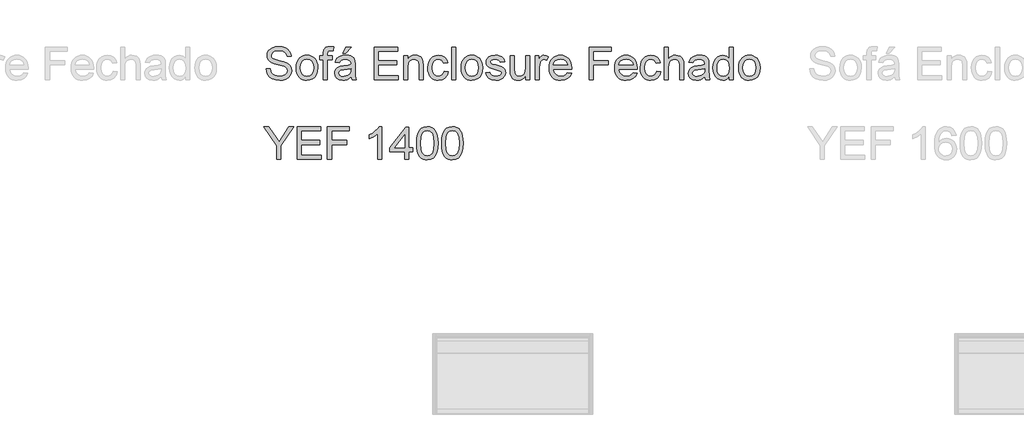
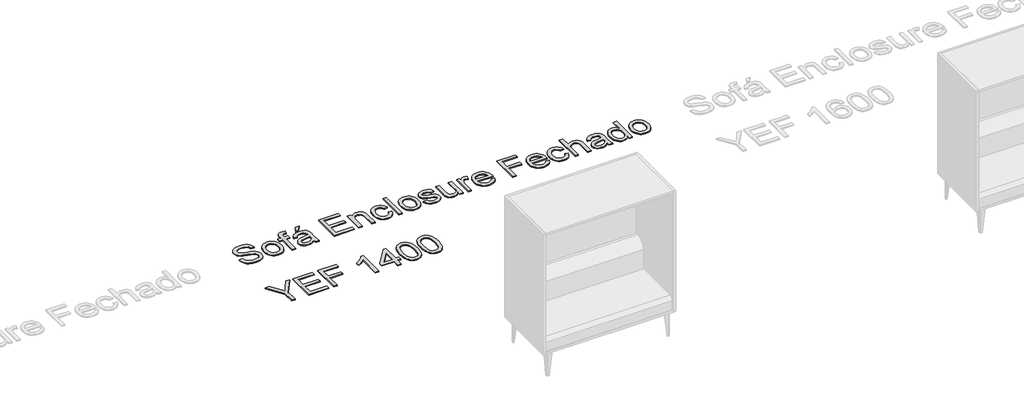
# One storey, part 11 of 26: 1 proxy.
"""IFC4 building model written with IfcOpenShell, lengths in millimetres."""

from ifc_helpers import new_model, si_unit, origin, origin_with_axes, place, context, project, spatial, polyline, outline, extrude, element, save

model = new_model("IFC4")

# Units and contexts
model_context = context("Model", 3, world=origin())
ifc_project = project(units=[si_unit("LENGTHUNIT", "METRE", prefix="MILLI")], contexts=[model_context])

# Site, building, storey
site = spatial("IfcSite", under=ifc_project)
building = spatial("IfcBuilding", under=site)
storey = spatial("IfcBuildingStorey", under=building, Name="Marelli - Linha YOUNG - Planta Baixa", Elevation=0.0)

# Proxy
placement = place(None, origin())
element("IfcBuildingElementProxy", 1, Name="300mm Arial", ObjectType="300mm Arial", at=placement, inside=storey, context=model_context, shape_type="SweptSolid", body=[
    extrude(outline(polyline([(-1367.7715428, -27311.0462967), (-1330.1004265, -27311.0462967), (-1325.7778131, -27331.9511911), (-1317.9603207, -27348.7542012), (-1305.7650326, -27362.0899235), (-1288.3090319, -27372.5929545), (-1266.9718762, -27379.4079684), (-1243.1331229, -27381.6796398), (-1222.1454551, -27379.9597914), (-1203.7697494, -27374.8002465), (-1188.8797256, -27366.6332662), (-1178.3491035, -27355.8911119), (-1172.0859126, -27343.557868), (-1169.9981822, -27330.6176188), (-1171.5616807, -27318.0084634), (-1176.2521762, -27307.1099593), (-1185.7803198, -27297.8117419), (-1201.856763, -27290.0034466), (-1256.7079685, -27275.6192606), (-1292.7144188, -27266.1003139), (-1315.7530287, -27257.0412198), (-1334.5058134, -27244.3676851), (-1347.7955505, -27229.0086118), (-1355.7142105, -27211.2950937), (-1358.3537638, -27191.5582247), (-1355.0888111, -27169.494502), (-1345.2939529, -27148.9207014), (-1329.2267068, -27131.4830948), (-1307.14459, -27118.8279542), (-1280.6386923, -27111.1300235), (-1251.3001032, -27108.5640465), (-1219.5150988, -27111.2495851), (-1191.70322, -27119.3062008), (-1168.8577481, -27132.5683467), (-1151.9719645, -27150.870476), (-1141.2849925, -27173.0721544), (-1137.0359555, -27198.0329478), (-1174.7070718, -27198.0329478), (-1181.6232533, -27175.5553579), (-1196.0442275, -27159.3317619), (-1218.5769997, -27149.5093126), (-1249.8285752, -27146.2351629), (-1281.8159147, -27149.4725244), (-1303.7600757, -27159.1846091), (-1316.4520045, -27173.4768246), (-1320.6826475, -27190.4545787), (-1317.6844092, -27204.9307352), (-1308.6896944, -27216.5742003), (-1287.4261151, -27226.9852608), (-1247.1798248, -27237.6170505), (-1205.6459476, -27247.7154112), (-1180.5196073, -27256.526185), (-1159.0444958, -27270.1930011), (-1144.0625016, -27287.0603906), (-1135.2609248, -27306.9444124), (-1132.3270659, -27329.6611256), (-1135.7023832, -27352.8836766), (-1145.8283352, -27374.7266701), (-1162.2910544, -27393.52544), (-1184.6766738, -27407.6153204), (-1211.5964388, -27416.4168972), (-1241.6615949, -27419.3507561), (-1278.5693561, -27416.1869709), (-1308.9472118, -27406.6956154), (-1333.14465, -27390.8399014), (-1351.5111587, -27368.5830407), (-1363.3017766, -27341.4701377), (-1367.7715428, -27311.0462967)])), origin_with_axes(), (0.0, 0.0, 1.0), 10.0),
    extrude(outline(polyline([(-1089.9470601, -27303.9829624), (-1087.9099135, -27275.3203564), (-1081.7984739, -27250.621679), (-1071.6127412, -27229.88693), (-1057.3527153, -27213.1161096), (-1042.9961205, -27202.3969479), (-1027.1496035, -27194.7404039), (-1009.8131645, -27190.1464775), (-990.9868034, -27188.6151687), (-970.2037699, -27190.4798706), (-951.4118978, -27196.0739761), (-934.6111869, -27205.3974855), (-919.8016373, -27218.4503985), (-907.7144145, -27234.7912569), (-899.0806839, -27253.9786022), (-893.9004456, -27276.0124344), (-892.1736995, -27300.8927536), (-895.22712, -27338.950146), (-904.3873817, -27367.9208531), (-919.3877701, -27389.6166938), (-939.9615707, -27405.8494868), (-964.3981322, -27415.9754388), (-990.9868034, -27419.3507561), (-1012.0733395, -27417.492952), (-1031.0399556, -27411.9195398), (-1047.8866517, -27402.6305194), (-1062.6134278, -27389.6258909), (-1074.571892, -27373.1263834), (-1083.113652, -27353.3527261), (-1088.2387081, -27330.3049191), (-1089.9470601, -27303.9829624)]), holes=[polyline([(-1052.2759438, -27303.909386), (-1047.9165421, -27338.0028499), (-1034.8383372, -27362.2922586), (-1015.1566505, -27376.8327945), (-990.9868034, -27381.6796398), (-966.9273209, -27376.8052033), (-947.2824224, -27362.181894), (-934.2042174, -27337.5705885), (-929.8448158, -27302.7321636), (-934.2318086, -27269.6319811), (-947.392787, -27245.6736661), (-967.0652766, -27231.1331303), (-990.9868034, -27226.286285), (-1015.1566505, -27231.1147362), (-1034.8383372, -27245.6000897), (-1047.9165421, -27269.8343162), (-1052.2759438, -27303.909386)])]), origin_with_axes(), (0.0, 0.0, 1.0), 10.0),
    extrude(outline(polyline([(-840.3759146, -27414.6418665), (-840.3759146, -27230.9951745), (-873.3381413, -27230.9951745), (-873.3381413, -27193.3240582), (-840.3759146, -27193.3240582), (-840.3759146, -27171.0304093), (-836.402789, -27139.6132869), (-828.8244199, -27127.086905), (-817.1257725, -27117.1724852), (-800.7550237, -27110.7161562), (-779.1603506, -27108.5640465), (-744.8001722, -27112.6843249), (-750.3184021, -27148.0009964), (-772.0234399, -27146.2351629), (-786.3432465, -27147.7986613), (-795.7518285, -27152.4891568), (-800.9665558, -27161.4470834), (-802.7047983, -27175.8128753), (-802.7047983, -27193.3240582), (-760.3247924, -27193.3240582), (-760.3247924, -27230.9951745), (-802.7047983, -27230.9951745), (-802.7047983, -27414.6418665), (-840.3759146, -27414.6418665)])), origin_with_axes(), (0.0, 0.0, 1.0), 10.0),
    extrude(outline(polyline([(-586.0958795, -27386.3885293), (-604.0945061, -27401.821179), (-622.6265616, -27411.9195398), (-642.1151103, -27417.492952), (-662.9832165, -27419.3507561), (-694.4647182, -27414.8809898), (-717.6872692, -27401.4716911), (-732.0070758, -27381.1094227), (-736.7803447, -27355.7807473), (-734.9777229, -27340.1641566), (-729.5698576, -27325.9823057), (-721.2281334, -27313.8421999), (-710.6239349, -27304.3508444), (-684.2467958, -27291.9900093), (-651.652451, -27286.3246266), (-613.1352061, -27280.3649383), (-586.3166087, -27273.3751804), (-586.0958795, -27264.9874709), (-588.6894476, -27248.1752637), (-596.4701518, -27237.1755921), (-613.8709701, -27229.0086118), (-638.1143936, -27226.286285), (-660.5551953, -27228.0981038), (-676.2269683, -27233.5335603), (-686.9139403, -27243.5859358), (-694.4003389, -27259.2485118), (-732.0714552, -27254.5396222), (-725.5323527, -27233.9382305), (-715.7742828, -27217.7514227), (-701.8867375, -27205.3721936), (-682.9592088, -27196.1935378), (-659.8102343, -27190.509761), (-633.2583513, -27188.6151687), (-607.7917202, -27190.2890318), (-587.6041957, -27195.310621), (-572.3830781, -27202.861399), (-561.8156678, -27212.1228282), (-554.8075158, -27223.5731553), (-550.2641732, -27237.6906269), (-548.4247632, -27270.6528536), (-548.4247632, -27317.5210198), (-546.5117768, -27382.9672267), (-539.0069841, -27414.6418665), (-576.6781004, -27414.6418665), (-586.0958795, -27386.3885293)]), holes=[polyline([(-586.0958795, -27311.0462967), (-646.8699851, -27322.5977913), (-679.2803889, -27328.7046325), (-693.9588805, -27338.6374463), (-699.1092284, -27353.1319969), (-696.3041282, -27364.3340037), (-687.8888276, -27373.5126595), (-674.0472675, -27379.6378947), (-654.963389, -27381.6796398), (-634.7298793, -27379.4263625), (-616.8508143, -27372.6665309), (-602.3562637, -27362.7061259), (-592.276297, -27350.8511286), (-587.8065308, -27338.6374463), (-586.3166087, -27321.7148746), (-586.0958795, -27311.0462967)])]), origin_with_axes(), (0.0, 0.0, 1.0), 10.0),
    extrude(outline(polyline([(-661.4381121, -27169.7796105), (-633.1847749, -27113.2729361), (-586.0958795, -27113.2729361), (-633.1847749, -27169.7796105), (-661.4381121, -27169.7796105)])), origin_with_axes(), (0.0, 0.0, 1.0), 10.0),
    extrude(outline(polyline([(-374.1958503, -27414.6418665), (-374.1958503, -27113.2729361), (-157.5869315, -27113.2729361), (-157.5869315, -27150.9440524), (-336.524734, -27150.9440524), (-336.524734, -27240.4129536), (-167.0047106, -27240.4129536), (-167.0047106, -27278.0840699), (-336.524734, -27278.0840699), (-336.524734, -27376.9707502), (-152.878042, -27376.9707502), (-152.878042, -27414.6418665), (-374.1958503, -27414.6418665)])), origin_with_axes(), (0.0, 0.0, 1.0), 10.0),
    extrude(outline(polyline([(-101.0802571, -27414.6418665), (-101.0802571, -27193.3240582), (-63.4091407, -27193.3240582), (-63.4091407, -27224.2261458), (-50.3217388, -27208.6463433), (-34.6039805, -27197.517913), (-16.255866, -27190.8408548), (4.7226048, -27188.6151687), (23.2914485, -27190.4085934), (40.2967937, -27195.7888676), (54.4786446, -27204.0846066), (64.5770054, -27214.6244258), (75.8709826, -27242.32594), (77.8575454, -27278.7462575), (77.8575454, -27414.6418665), (40.1864291, -27414.6418665), (40.1864291, -27283.823029), (35.8454216, -27250.4929203), (29.839748, -27240.5693035), (20.5047424, -27232.8713727), (8.5393805, -27227.9325569), (-5.3573619, -27226.286285), (-27.4210846, -27229.9834991), (-46.2290516, -27241.0751412), (-53.7453406, -27250.1296368), (-59.1141185, -27262.5042674), (-63.4091407, -27297.2139337), (-63.4091407, -27414.6418665), (-101.0802571, -27414.6418665)])), origin_with_axes(), (0.0, 0.0, 1.0), 10.0),
    extrude(outline(polyline([(270.9220165, -27334.5907444), (308.5931328, -27339.2996339), (298.0901018, -27372.8044866), (278.3532328, -27398.1239649), (251.2403297, -27414.0440583), (218.6091968, -27419.3507561), (197.4812739, -27417.4998498), (178.5376504, -27411.9471309), (161.7783263, -27402.6925995), (147.2033015, -27389.7362555), (135.4057858, -27373.3218207), (126.9789888, -27353.693017), (121.9229106, -27330.8498443), (120.2375512, -27304.7923028), (123.1162279, -27271.269056), (131.7522577, -27242.2155754), (146.2835965, -27218.7539012), (166.8482, -27202.0060733), (191.4503085, -27191.9628949), (218.094162, -27188.6151687), (249.9251516, -27193.2136936), (275.3733886, -27207.0092685), (293.6295326, -27229.2661292), (303.8842432, -27259.2485118), (266.2131269, -27263.9574013), (259.3797189, -27247.5222732), (248.7387322, -27235.7408523), (234.878778, -27228.6499268), (218.3884676, -27226.286285), (194.0438765, -27230.9399922), (174.7208747, -27244.901114), (162.1117193, -27268.9238082), (157.9086676, -27303.7622332), (162.0197488, -27339.0697077), (174.3529927, -27363.1751754), (193.3265066, -27377.0535237), (217.358398, -27381.6796398), (236.8653408, -27378.7917661), (252.8590105, -27370.1281451), (264.4932786, -27355.4680476), (270.9220165, -27334.5907444)])), origin_with_axes(), (0.0, 0.0, 1.0), 10.0),
    extrude(outline(polyline([(341.5553595, -27414.6418665), (341.5553595, -27113.2729361), (379.2264758, -27113.2729361), (379.2264758, -27414.6418665), (341.5553595, -27414.6418665)])), origin_with_axes(), (0.0, 0.0, 1.0), 10.0),
    extrude(outline(polyline([(426.3153712, -27303.9829624), (428.3525178, -27275.3203564), (434.4639574, -27250.621679), (444.6496902, -27229.88693), (458.909716, -27213.1161096), (473.2663109, -27202.3969479), (489.1128278, -27194.7404039), (506.4492668, -27190.1464775), (525.2756279, -27188.6151687), (546.0586614, -27190.4798706), (564.8505336, -27196.0739761), (581.6512444, -27205.3974855), (596.460794, -27218.4503985), (608.5480168, -27234.7912569), (617.1817474, -27253.9786022), (622.3619857, -27276.0124344), (624.0887318, -27300.8927536), (621.0353113, -27338.950146), (611.8750496, -27367.9208531), (596.8746612, -27389.6166938), (576.3008607, -27405.8494868), (551.8642991, -27415.9754388), (525.2756279, -27419.3507561), (504.1890918, -27417.492952), (485.2224757, -27411.9195398), (468.3757796, -27402.6305194), (453.6490035, -27389.6258909), (441.6905394, -27373.1263834), (433.1487793, -27353.3527261), (428.0237232, -27330.3049191), (426.3153712, -27303.9829624)]), holes=[polyline([(463.9864875, -27303.909386), (468.3458892, -27338.0028499), (481.4240941, -27362.2922586), (501.1057809, -27376.8327945), (525.2756279, -27381.6796398), (549.3351104, -27376.8052033), (568.980009, -27362.181894), (582.0582139, -27337.5705885), (586.4176155, -27302.7321636), (582.0306227, -27269.6319811), (568.8696444, -27245.6736661), (549.1971547, -27231.1331303), (525.2756279, -27226.286285), (501.1057809, -27231.1147362), (481.4240941, -27245.6000897), (468.3458892, -27269.8343162), (463.9864875, -27303.909386)])]), origin_with_axes(), (0.0, 0.0, 1.0), 10.0),
    extrude(outline(polyline([(652.3420691, -27348.717413), (690.0131854, -27344.0085235), (695.9544796, -27360.1217548), (707.4507919, -27371.9675551), (724.5756988, -27379.2516186), (747.4027766, -27381.6796398), (769.9539429, -27379.4539537), (785.8096569, -27372.7768955), (795.1906478, -27363.101599), (798.3176448, -27351.8811982), (795.1722537, -27342.2794781), (785.7360805, -27334.9586264), (746.9613182, -27324.2164721), (690.2339146, -27305.7855842), (675.8773197, -27296.5241549), (665.4754563, -27284.2644874), (659.157083, -27269.7883309), (657.0509586, -27253.8774346), (658.7432158, -27239.2817165), (663.8199873, -27225.8080384), (671.8214207, -27213.9898293), (682.2876635, -27204.3605181), (706.2367814, -27193.2136936), (738.6471851, -27188.6151687), (763.1665201, -27190.4637757), (784.4852817, -27196.0095968), (801.6285827, -27204.710006), (813.6215358, -27216.0223773), (821.5677869, -27230.7836424), (826.570982, -27249.8307327), (788.8998657, -27254.5396222), (784.1449909, -27242.6846249), (774.7364089, -27233.7542895), (760.5821491, -27228.1532861), (741.5902411, -27226.286285), (719.9587798, -27228.0705127), (705.5378056, -27233.4231957), (697.4260076, -27241.1487176), (694.7220749, -27250.0514619), (699.2102353, -27261.0143453), (713.2633275, -27269.3284784), (745.7105194, -27277.3483059), (801.0031833, -27295.0802181), (815.6080985, -27303.5598981), (826.6813466, -27315.166575), (833.6619074, -27329.9370371), (835.9887611, -27347.9080726), (833.2572372, -27366.4861134), (825.0626658, -27383.9605081), (811.7177464, -27398.9608965), (793.5351788, -27410.116918), (771.5726237, -27417.0422966), (746.8877418, -27419.3507561), (708.9039258, -27414.8993839), (681.1840175, -27401.5452675), (662.6795531, -27379.4355596), (652.3420691, -27348.717413)])), origin_with_axes(), (0.0, 0.0, 1.0), 10.0),
    extrude(outline(polyline([(1019.6354531, -27414.6418665), (1019.6354531, -27376.6028682), (1006.0054251, -27395.3050692), (990.131317, -27408.6637841), (972.0131288, -27416.6790131), (951.6508603, -27419.3507561), (933.3027458, -27417.4745579), (916.2238242, -27411.8459634), (901.8948205, -27403.3846775), (891.7964597, -27393.0104052), (880.5760589, -27365.2721028), (878.3687669, -27330.2497368), (878.3687669, -27193.3240582), (916.0398832, -27193.3240582), (916.0398832, -27312.5178247), (918.3207516, -27350.924705), (923.8113904, -27363.7361954), (933.2199724, -27373.4758713), (945.9210983, -27379.6286976), (961.2893686, -27381.6796398), (977.5405558, -27379.5827124), (992.7432792, -27373.2919303), (1005.2788582, -27363.3867076), (1013.5286119, -27350.4464584), (1018.1087428, -27332.7237433), (1019.6354531, -27308.4711227), (1019.6354531, -27193.3240582), (1057.3065694, -27193.3240582), (1057.3065694, -27414.6418665), (1019.6354531, -27414.6418665)])), origin_with_axes(), (0.0, 0.0, 1.0), 10.0),
    extrude(outline(polyline([(1109.1043543, -27414.6418665), (1109.1043543, -27193.3240582), (1142.066581, -27193.3240582), (1142.066581, -27226.0655558), (1154.2434751, -27207.0828449), (1165.4638759, -27195.8992322), (1176.721065, -27190.4361846), (1189.0083236, -27188.6151687), (1207.7703054, -27191.5214365), (1226.8265927, -27200.2402397), (1214.2450285, -27234.0118069), (1201.0012767, -27228.2176655), (1187.7575248, -27226.286285), (1176.5095328, -27228.1440891), (1166.4571573, -27233.7175013), (1158.3361623, -27242.5834574), (1152.8823117, -27254.318893), (1148.3021809, -27275.3617432), (1146.7754706, -27298.3175797), (1146.7754706, -27414.6418665), (1109.1043543, -27414.6418665)])), origin_with_axes(), (0.0, 0.0, 1.0), 10.0),
    extrude(outline(polyline([(1405.3229368, -27348.717413), (1442.2582891, -27353.4263025), (1428.9501579, -27381.2565755), (1407.7141698, -27402.0603023), (1379.0285712, -27415.0281426), (1343.3716088, -27419.3507561), (1319.9973065, -27417.4860542), (1299.1705871, -27411.8919486), (1280.8914505, -27402.5684393), (1265.1598966, -27389.5155263), (1252.5093545, -27373.096493), (1243.473253, -27353.6746229), (1238.0515921, -27331.249916), (1236.2443718, -27305.8223724), (1238.0699862, -27279.5326053), (1243.5468294, -27256.3606381), (1252.6749014, -27236.3064708), (1265.4542022, -27219.3701035), (1281.1443693, -27205.9148195), (1299.0050402, -27196.3039024), (1319.0362148, -27190.5373521), (1341.2378932, -27188.6151687), (1362.724501, -27190.5327536), (1382.1555682, -27196.2855083), (1399.5310946, -27205.8734328), (1414.8510805, -27219.2965271), (1427.356769, -27236.1961062), (1436.2894037, -27256.2134853), (1441.6489846, -27279.3486643), (1443.4355115, -27305.6016432), (1443.2147823, -27315.7551862), (1273.9154881, -27315.7551862), (1280.4361965, -27343.9533412), (1295.5837376, -27364.6834916), (1317.4451252, -27377.4306027), (1344.1073728, -27381.6796398), (1364.1569415, -27379.7114711), (1381.0427251, -27373.8069651), (1394.7647235, -27363.5982397), (1405.3229368, -27348.717413)]), holes=[polyline([(1273.9154881, -27278.0840699), (1405.7643952, -27278.0840699), (1400.6692296, -27258.181654), (1390.6812334, -27243.9446208), (1368.7186783, -27230.7008689), (1341.0907404, -27226.286285), (1315.6976857, -27229.8087551), (1294.7008208, -27240.3761654), (1280.1051027, -27256.8480818), (1273.9154881, -27278.0840699)])]), origin_with_axes(), (0.0, 0.0, 1.0), 10.0),
    extrude(outline(polyline([(1603.5377558, -27414.6418665), (1603.5377558, -27113.2729361), (1806.0200059, -27113.2729361), (1806.0200059, -27150.9440524), (1641.2088721, -27150.9440524), (1641.2088721, -27240.4129536), (1782.4755583, -27240.4129536), (1782.4755583, -27278.0840699), (1641.2088721, -27278.0840699), (1641.2088721, -27414.6418665), (1603.5377558, -27414.6418665)])), origin_with_axes(), (0.0, 0.0, 1.0), 10.0),
    extrude(outline(polyline([(2008.0607977, -27348.717413), (2044.99615, -27353.4263025), (2031.6880188, -27381.2565755), (2010.4520307, -27402.0603023), (1981.7664321, -27415.0281426), (1946.1094697, -27419.3507561), (1922.7351674, -27417.4860542), (1901.908448, -27411.8919486), (1883.6293114, -27402.5684393), (1867.8977575, -27389.5155263), (1855.2472154, -27373.096493), (1846.2111139, -27353.6746229), (1840.789453, -27331.249916), (1838.9822327, -27305.8223724), (1840.8078471, -27279.5326053), (1846.2846903, -27256.3606381), (1855.4127623, -27236.3064708), (1868.1920631, -27219.3701035), (1883.8822302, -27205.9148195), (1901.7429011, -27196.3039024), (1921.7740757, -27190.5373521), (1943.9757541, -27188.6151687), (1965.4623619, -27190.5327536), (1984.893429, -27196.2855083), (2002.2689555, -27205.8734328), (2017.5889414, -27219.2965271), (2030.0946299, -27236.1961062), (2039.0272646, -27256.2134853), (2044.3868455, -27279.3486643), (2046.1733724, -27305.6016432), (2045.9526432, -27315.7551862), (1876.653349, -27315.7551862), (1883.1740574, -27343.9533412), (1898.3215985, -27364.6834916), (1920.1829861, -27377.4306027), (1946.8452337, -27381.6796398), (1966.8948024, -27379.7114711), (1983.780586, -27373.8069651), (1997.5025844, -27363.5982397), (2008.0607977, -27348.717413)]), holes=[polyline([(1876.653349, -27278.0840699), (2008.5022561, -27278.0840699), (2003.4070905, -27258.181654), (1993.4190943, -27243.9446208), (1971.4565392, -27230.7008689), (1943.8286013, -27226.286285), (1918.4355466, -27229.8087551), (1897.4386817, -27240.3761654), (1882.8429636, -27256.8480818), (1876.653349, -27278.0840699)])]), origin_with_axes(), (0.0, 0.0, 1.0), 10.0),
    extrude(outline(polyline([(2225.1111748, -27334.5907444), (2262.7822912, -27339.2996339), (2252.2792602, -27372.8044866), (2232.5423912, -27398.1239649), (2205.4294881, -27414.0440583), (2172.7983551, -27419.3507561), (2151.6704323, -27417.4998498), (2132.7268088, -27411.9471309), (2115.9674847, -27402.6925995), (2101.3924599, -27389.7362555), (2089.5949441, -27373.3218207), (2081.1681472, -27353.693017), (2076.112069, -27330.8498443), (2074.4267096, -27304.7923028), (2077.3053862, -27271.269056), (2085.9414161, -27242.2155754), (2100.4727549, -27218.7539012), (2121.0373584, -27202.0060733), (2145.6394668, -27191.9628949), (2172.2833203, -27188.6151687), (2204.11431, -27193.2136936), (2229.562547, -27207.0092685), (2247.818691, -27229.2661292), (2258.0734016, -27259.2485118), (2220.4022853, -27263.9574013), (2213.5688773, -27247.5222732), (2202.9278905, -27235.7408523), (2189.0679364, -27228.6499268), (2172.5776259, -27226.286285), (2148.2330349, -27230.9399922), (2128.9100331, -27244.901114), (2116.3008777, -27268.9238082), (2112.0978259, -27303.7622332), (2116.2089072, -27339.0697077), (2128.5421511, -27363.1751754), (2147.515665, -27377.0535237), (2171.5475564, -27381.6796398), (2191.0544991, -27378.7917661), (2207.0481689, -27370.1281451), (2218.682437, -27355.4680476), (2225.1111748, -27334.5907444)])), origin_with_axes(), (0.0, 0.0, 1.0), 10.0),
    extrude(outline(polyline([(2295.7445179, -27414.6418665), (2295.7445179, -27113.2729361), (2333.4156342, -27113.2729361), (2333.4156342, -27224.078993), (2347.2525958, -27208.5635699), (2362.7910115, -27197.4811248), (2380.0308815, -27190.8316577), (2398.9722058, -27188.6151687), (2421.7257072, -27191.0339928), (2441.2786352, -27198.2904652), (2456.6744967, -27209.8143687), (2466.9567985, -27225.0354862), (2472.7509399, -27245.9495776), (2474.6823204, -27274.5524028), (2474.6823204, -27414.6418665), (2437.0112041, -27414.6418665), (2437.0112041, -27278.4519519), (2434.0129658, -27254.870716), (2425.018251, -27238.7206964), (2410.5237004, -27229.3948879), (2391.0259547, -27226.286285), (2375.1058613, -27228.3832124), (2360.1606553, -27234.6739945), (2347.7814261, -27244.5516261), (2339.5592635, -27257.4091018), (2334.9515416, -27274.4972205), (2333.4156342, -27297.0667809), (2333.4156342, -27414.6418665), (2295.7445179, -27414.6418665)])), origin_with_axes(), (0.0, 0.0, 1.0), 10.0),
    extrude(outline(polyline([(2667.7467914, -27386.3885293), (2649.7481648, -27401.821179), (2631.2161093, -27411.9195398), (2611.7275606, -27417.492952), (2590.8594545, -27419.3507561), (2559.3779527, -27414.8809898), (2536.1554018, -27401.4716911), (2521.8355951, -27381.1094227), (2517.0623262, -27355.7807473), (2518.864948, -27340.1641566), (2524.2728133, -27325.9823057), (2532.6145376, -27313.8421999), (2543.2187361, -27304.3508444), (2569.5958751, -27291.9900093), (2602.1902199, -27286.3246266), (2640.7074648, -27280.3649383), (2667.5260622, -27273.3751804), (2667.7467914, -27264.9874709), (2665.1532234, -27248.1752637), (2657.3725192, -27237.1755921), (2639.9717008, -27229.0086118), (2615.7282773, -27226.286285), (2593.2874756, -27228.0981038), (2577.6157026, -27233.5335603), (2566.9287307, -27243.5859358), (2559.4423321, -27259.2485118), (2521.7712158, -27254.5396222), (2528.3103182, -27233.9382305), (2538.0683881, -27217.7514227), (2551.9559335, -27205.3721936), (2570.8834621, -27196.1935378), (2594.0324367, -27190.509761), (2620.5843197, -27188.6151687), (2646.0509508, -27190.2890318), (2666.2384753, -27195.310621), (2681.4595928, -27202.861399), (2692.0270031, -27212.1228282), (2699.0351551, -27223.5731553), (2703.5784978, -27237.6906269), (2705.4179078, -27270.6528536), (2705.4179078, -27317.5210198), (2707.3308941, -27382.9672267), (2714.8356868, -27414.6418665), (2677.1645705, -27414.6418665), (2667.7467914, -27386.3885293)]), holes=[polyline([(2667.7467914, -27311.0462967), (2606.9726858, -27322.5977913), (2574.5622821, -27328.7046325), (2559.8837905, -27338.6374463), (2554.7334425, -27353.1319969), (2557.5385427, -27364.3340037), (2565.9538434, -27373.5126595), (2579.7954034, -27379.6378947), (2598.8792819, -27381.6796398), (2619.1127917, -27379.4263625), (2636.9918566, -27372.6665309), (2651.4864073, -27362.7061259), (2661.5663739, -27350.8511286), (2666.0361402, -27338.6374463), (2667.5260622, -27321.7148746), (2667.7467914, -27311.0462967)])]), origin_with_axes(), (0.0, 0.0, 1.0), 10.0),
    extrude(outline(polyline([(2893.7734893, -27414.6418665), (2893.7734893, -27379.1044658), (2882.5025047, -27396.7122178), (2868.8494841, -27409.2891835), (2852.8144276, -27416.8353629), (2834.3973353, -27419.3507561), (2810.0435472, -27415.7087243), (2787.7498983, -27404.7826291), (2768.8775519, -27387.3358254), (2754.7876715, -27364.1316686), (2746.0136859, -27336.1082576), (2743.0890241, -27304.2036916), (2745.7837597, -27272.6945987), (2753.8679665, -27244.2389264), (2767.3324475, -27220.4553554), (2786.1680057, -27202.9625665), (2808.9490982, -27192.2020181), (2834.2501825, -27188.6151687), (2852.6810704, -27191.1811456), (2868.9782428, -27198.8790764), (2882.7922117, -27210.6788914), (2893.7734893, -27225.550521), (2893.7734893, -27113.2729361), (2931.4446056, -27113.2729361), (2931.4446056, -27414.6418665), (2893.7734893, -27414.6418665)]), holes=[polyline([(2780.7601404, -27304.0565388), (2785.0091774, -27338.1316086), (2797.7562885, -27362.365835), (2816.279147, -27376.8511886), (2837.855426, -27381.6796398), (2859.422508, -27377.0719178), (2877.4763169, -27363.2487518), (2889.6991962, -27339.9526245), (2893.7734893, -27306.9260183), (2889.6256198, -27270.8184005), (2877.1820113, -27245.7840307), (2858.6683499, -27231.1607214), (2836.3103216, -27226.286285), (2814.5133134, -27230.9675834), (2796.6526426, -27245.0114786), (2784.7332659, -27269.1353404), (2780.7601404, -27304.0565388)])]), origin_with_axes(), (0.0, 0.0, 1.0), 10.0),
    extrude(outline(polyline([(2978.533501, -27303.9829624), (2980.5706475, -27275.3203564), (2986.6820872, -27250.621679), (2996.8678199, -27229.88693), (3011.1278457, -27213.1161096), (3025.4844406, -27202.3969479), (3041.3309575, -27194.7404039), (3058.6673966, -27190.1464775), (3077.4937577, -27188.6151687), (3098.2767911, -27190.4798706), (3117.0686633, -27196.0739761), (3133.8693742, -27205.3974855), (3148.6789237, -27218.4503985), (3160.7661465, -27234.7912569), (3169.3998771, -27253.9786022), (3174.5801155, -27276.0124344), (3176.3068616, -27300.8927536), (3173.253441, -27338.950146), (3164.0931793, -27367.9208531), (3149.092791, -27389.6166938), (3128.5189904, -27405.8494868), (3104.0824289, -27415.9754388), (3077.4937577, -27419.3507561), (3056.4072216, -27417.492952), (3037.4406054, -27411.9195398), (3020.5939093, -27402.6305194), (3005.8671332, -27389.6258909), (2993.9086691, -27373.1263834), (2985.366909, -27353.3527261), (2980.241853, -27330.3049191), (2978.533501, -27303.9829624)]), holes=[polyline([(3016.2046173, -27303.909386), (3020.5640189, -27338.0028499), (3033.6422238, -27362.2922586), (3053.3239106, -27376.8327945), (3077.4937577, -27381.6796398), (3101.5532402, -27376.8052033), (3121.1981387, -27362.181894), (3134.2763436, -27337.5705885), (3138.6357453, -27302.7321636), (3134.2487525, -27269.6319811), (3121.0877741, -27245.6736661), (3101.4152844, -27231.1331303), (3077.4937577, -27226.286285), (3053.3239106, -27231.1147362), (3033.6422238, -27245.6000897), (3020.5640189, -27269.8343162), (3016.2046173, -27303.909386)])]), origin_with_axes(), (0.0, 0.0, 1.0), 10.0),
    extrude(outline(polyline([(-1268.8848625, -28146.4907736), (-1268.8848625, -28018.8357213), (-1386.607101, -27845.1218432), (-1342.166956, -27845.1218432), (-1279.3327112, -27937.9016823), (-1247.1798248, -27985.2113069), (-1214.953362, -27934.517168), (-1157.9316528, -27845.1218432), (-1113.4915078, -27845.1218432), (-1231.2137462, -28018.8357213), (-1231.2137462, -28146.4907736), (-1268.8848625, -28146.4907736)])), origin_with_axes(), (0.0, 0.0, 1.0), 10.0),
    extrude(outline(polyline([(-1080.529281, -28146.4907736), (-1080.529281, -27845.1218432), (-863.9203623, -27845.1218432), (-863.9203623, -27882.7929595), (-1042.8581647, -27882.7929595), (-1042.8581647, -27972.2618607), (-873.3381413, -27972.2618607), (-873.3381413, -28009.932977), (-1042.8581647, -28009.932977), (-1042.8581647, -28108.8196573), (-859.2114727, -28108.8196573), (-859.2114727, -28146.4907736), (-1080.529281, -28146.4907736)])), origin_with_axes(), (0.0, 0.0, 1.0), 10.0),
    extrude(outline(polyline([(-802.7047983, -28146.4907736), (-802.7047983, -27845.1218432), (-600.2225481, -27845.1218432), (-600.2225481, -27882.7929595), (-765.0336819, -27882.7929595), (-765.0336819, -27972.2618607), (-623.7669958, -27972.2618607), (-623.7669958, -28009.932977), (-765.0336819, -28009.932977), (-765.0336819, -28146.4907736), (-802.7047983, -28146.4907736)])), origin_with_axes(), (0.0, 0.0, 1.0), 10.0),
    extrude(outline(polyline([(-303.5625072, -28146.4907736), (-341.2336235, -28146.4907736), (-341.2336235, -27911.6349079), (-376.918177, -27937.0555537), (-416.5758561, -27956.0750529), (-416.5758561, -27920.4640758), (-386.9889467, -27904.3692385), (-361.3567686, -27885.2209806), (-341.1508501, -27864.8587122), (-327.8427189, -27845.1218432), (-303.5625072, -27845.1218432), (-303.5625072, -28146.4907736)])), origin_with_axes(), (0.0, 0.0, 1.0), 10.0),
    extrude(outline(polyline([(-91.662478, -28146.4907736), (-91.662478, -28075.8574305), (-228.2202746, -28075.8574305), (-228.2202746, -28038.1863142), (-82.2446989, -27849.8307327), (-53.9913617, -27849.8307327), (-53.9913617, -28038.1863142), (-16.3202454, -28038.1863142), (-16.3202454, -28075.8574305), (-53.9913617, -28075.8574305), (-53.9913617, -28146.4907736), (-91.662478, -28146.4907736)]), holes=[polyline([(-91.662478, -28038.1863142), (-91.662478, -27921.7884509), (-181.8671432, -28038.1863142), (-91.662478, -28038.1863142)])]), origin_with_axes(), (0.0, 0.0, 1.0), 10.0),
    extrude(outline(polyline([(16.6419814, -27998.2343295), (19.4102934, -27949.9958029), (27.7152295, -27911.5245433), (41.4740161, -27882.2319394), (60.6038798, -27861.5293801), (85.2427765, -27849.2237274), (115.5286617, -27845.1218432), (138.7420156, -27847.5498643), (159.5273483, -27854.8339278), (176.9097726, -27866.6889251), (189.9144011, -27882.8297477), (199.7368504, -27903.1184397), (207.5727369, -27927.4170455), (212.7046907, -27958.2731478), (214.415342, -27998.2343295), (211.6746211, -28046.1969447), (203.4524586, -28084.5762338), (189.7764454, -28113.8964288), (170.6741728, -28134.6817616), (145.9800939, -28147.0701877), (115.5286617, -28151.1996631), (94.7801172, -28149.4062384), (76.3860174, -28144.0259642), (60.3463624, -28135.0588406), (46.6611522, -28122.5048675), (33.527765, -28099.8111469), (24.1467741, -28071.5348171), (18.5181796, -28037.675878), (16.6419814, -27998.2343295)]), holes=[polyline([(54.3130977, -27998.1607531), (58.7276817, -28057.4173455), (64.2459116, -28077.6853442), (71.9714335, -28091.7131445), (91.6899084, -28108.0746963), (115.5286617, -28113.5285468), (139.367415, -28108.0563022), (159.0858899, -28091.6395681), (166.8114118, -28077.5887752), (172.3296418, -28057.325375), (176.7442257, -27998.1607531), (172.4767946, -27940.237733), (167.1425056, -27920.0364129), (159.6745011, -27905.6752196), (139.9928144, -27888.5135245), (115.0872033, -27882.7929595), (91.5059674, -27887.8329428), (72.5600447, -27902.9528928), (64.5770054, -27918.5878776), (58.8748344, -27939.6675159), (54.3130977, -27998.1607531)])]), origin_with_axes(), (0.0, 0.0, 1.0), 10.0),
    extrude(outline(polyline([(247.3775688, -27998.2343295), (250.1458808, -27949.9958029), (258.4508168, -27911.5245433), (272.2096035, -27882.2319394), (291.3394672, -27861.5293801), (315.9783638, -27849.2237274), (346.2642491, -27845.1218432), (369.477603, -27847.5498643), (390.2629357, -27854.8339278), (407.64536, -27866.6889251), (420.6499885, -27882.8297477), (430.4724378, -27903.1184397), (438.3083243, -27927.4170455), (443.4402781, -27958.2731478), (445.1509294, -27998.2343295), (442.4102085, -28046.1969447), (434.1880459, -28084.5762338), (420.5120328, -28113.8964288), (401.4097602, -28134.6817616), (376.7156812, -28147.0701877), (346.2642491, -28151.1996631), (325.5157046, -28149.4062384), (307.1216048, -28144.0259642), (291.0819498, -28135.0588406), (277.3967396, -28122.5048675), (264.2633524, -28099.8111469), (254.8823615, -28071.5348171), (249.253767, -28037.675878), (247.3775688, -27998.2343295)]), holes=[polyline([(285.0486851, -27998.1607531), (289.463269, -28057.4173455), (294.981499, -28077.6853442), (302.7070209, -28091.7131445), (322.4254958, -28108.0746963), (346.2642491, -28113.5285468), (370.1030024, -28108.0563022), (389.8214773, -28091.6395681), (397.5469992, -28077.5887752), (403.0652291, -28057.325375), (407.4798131, -27998.1607531), (403.2123819, -27940.237733), (397.878093, -27920.0364129), (390.4100885, -27905.6752196), (370.7284018, -27888.5135245), (345.8227907, -27882.7929595), (322.2415548, -27887.8329428), (303.295632, -27902.9528928), (295.3125928, -27918.5878776), (289.6104218, -27939.6675159), (285.0486851, -27998.1607531)])]), origin_with_axes(), (0.0, 0.0, 1.0), 10.0),
])

save(model, "model.ifc")
